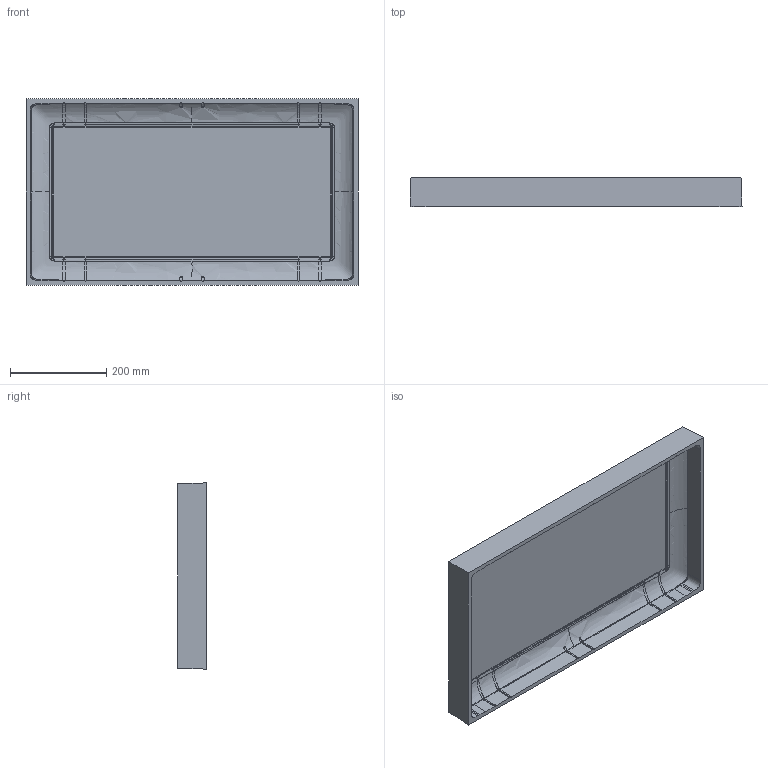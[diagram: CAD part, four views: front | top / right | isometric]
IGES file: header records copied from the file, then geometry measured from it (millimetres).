
Start section: SolidWorks IGES file using analytic representation for surfaces
Global section: file name: E:\Air Cases step files\OEM parts for 1485\1605 Top Tub.IGS; native system: SolidWorks 2016; preprocessor: SolidWorks 2016; author: mhakami; date: 160419.134712; units: inch
Bounding box: 688.64 x 59.69 x 386.37 mm (x, y, z)
Surface area: 733487.2 mm2 (no closed solid volume)
Topology: 0 solids, 0 shells, 259 faces, 3559 edges, 3559 vertices
Faces by surface type: bspline 205, revolution 54
